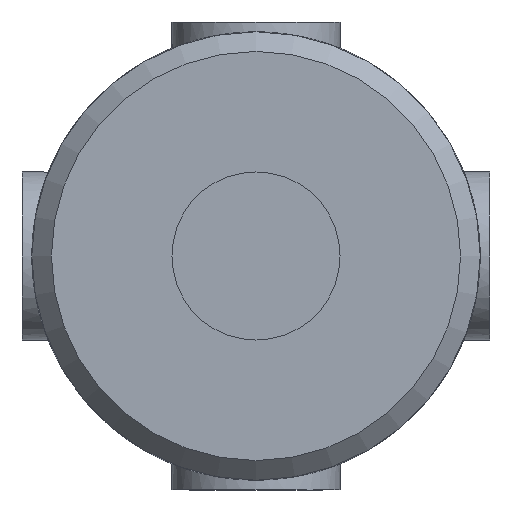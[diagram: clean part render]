
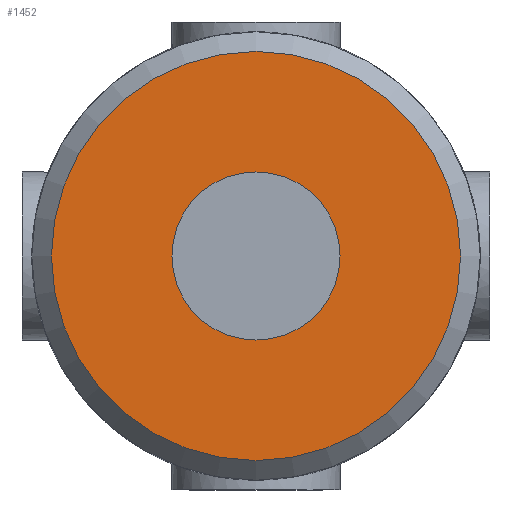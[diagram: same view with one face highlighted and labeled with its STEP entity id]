
A CAD part, front view. The second image highlights one B-rep face of the part: STEP entity #1452.
In plain terms, the highlighted planar face has unit normal (0, -1, 0).
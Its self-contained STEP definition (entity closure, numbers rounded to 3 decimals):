
#200=PLANE('',#1603);
#328=FACE_BOUND('',#537,.T.);
#406=FACE_OUTER_BOUND('',#536,.T.);
#536=EDGE_LOOP('',(#1267));
#537=EDGE_LOOP('',(#1268));
#619=CIRCLE('',#1597,3.);
#622=CIRCLE('',#1601,7.3);
#743=VERTEX_POINT('',#2813);
#746=VERTEX_POINT('',#2820);
#922=EDGE_CURVE('',#743,#743,#619,.T.);
#925=EDGE_CURVE('',#746,#746,#622,.T.);
#1267=ORIENTED_EDGE('',*,*,#925,.F.);
#1268=ORIENTED_EDGE('',*,*,#922,.T.);
#1452=ADVANCED_FACE('',(#406,#328),#200,.F.);
#1597=AXIS2_PLACEMENT_3D('',#2814,#1922,#1923);
#1601=AXIS2_PLACEMENT_3D('',#2821,#1930,#1931);
#1603=AXIS2_PLACEMENT_3D('',#2989,#1938,#1939);
#1922=DIRECTION('center_axis',(0.,1.,0.));
#1923=DIRECTION('ref_axis',(-1.,0.,0.));
#1930=DIRECTION('center_axis',(0.,1.,0.));
#1931=DIRECTION('ref_axis',(1.,0.,0.));
#1938=DIRECTION('center_axis',(0.,1.,0.));
#1939=DIRECTION('ref_axis',(0.,0.,1.));
#2813=CARTESIAN_POINT('',(3.,-21.,0.));
#2814=CARTESIAN_POINT('Origin',(0.,-21.,0.));
#2820=CARTESIAN_POINT('',(-7.3,-21.,0.));
#2821=CARTESIAN_POINT('Origin',(0.,-21.,0.));
#2989=CARTESIAN_POINT('Origin',(0.,-21.,0.));
